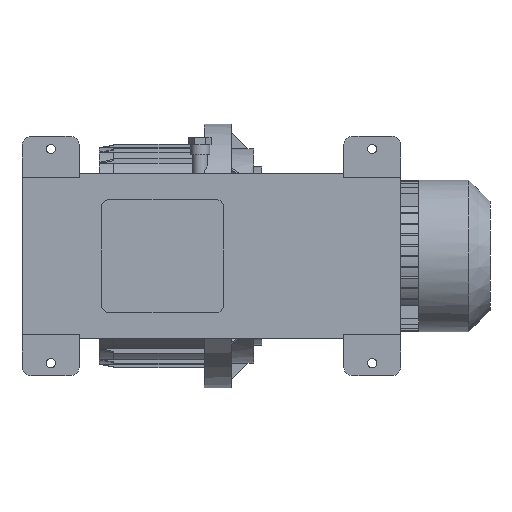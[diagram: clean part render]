
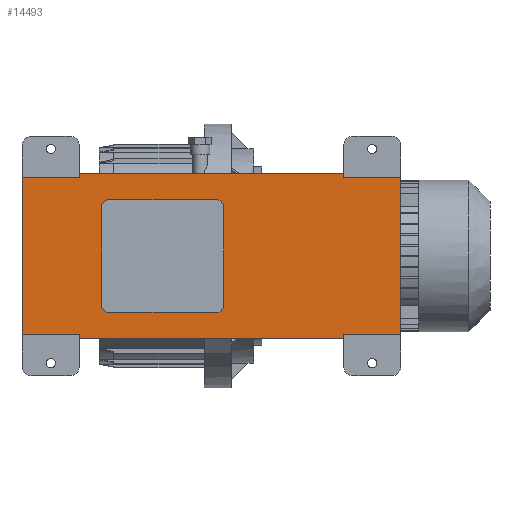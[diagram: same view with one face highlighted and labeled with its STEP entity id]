
A CAD part, front view. The second image highlights one B-rep face of the part: STEP entity #14493.
In plain terms, the highlighted planar face has unit normal (0, -1, 0).
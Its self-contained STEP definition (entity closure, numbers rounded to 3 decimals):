
#215=CIRCLE('',#15037,10.);
#217=CIRCLE('',#15040,10.);
#219=CIRCLE('',#15043,10.);
#221=CIRCLE('',#15046,10.);
#966=ORIENTED_EDGE('',*,*,#3872,.T.);
#967=ORIENTED_EDGE('',*,*,#3892,.T.);
#968=ORIENTED_EDGE('',*,*,#3926,.F.);
#969=ORIENTED_EDGE('',*,*,#3921,.T.);
#970=ORIENTED_EDGE('',*,*,#3902,.T.);
#971=ORIENTED_EDGE('',*,*,#3927,.T.);
#972=ORIENTED_EDGE('',*,*,#3911,.T.);
#973=ORIENTED_EDGE('',*,*,#3917,.T.);
#974=ORIENTED_EDGE('',*,*,#3928,.F.);
#975=ORIENTED_EDGE('',*,*,#3886,.T.);
#976=ORIENTED_EDGE('',*,*,#3881,.T.);
#977=ORIENTED_EDGE('',*,*,#3929,.T.);
#978=ORIENTED_EDGE('',*,*,#3864,.T.);
#979=ORIENTED_EDGE('',*,*,#3748,.T.);
#980=ORIENTED_EDGE('',*,*,#3863,.T.);
#981=ORIENTED_EDGE('',*,*,#3752,.T.);
#982=ORIENTED_EDGE('',*,*,#3862,.T.);
#983=ORIENTED_EDGE('',*,*,#3744,.T.);
#984=ORIENTED_EDGE('',*,*,#3865,.T.);
#985=ORIENTED_EDGE('',*,*,#3756,.T.);
#3744=EDGE_CURVE('',#5286,#5285,#215,.T.);
#3748=EDGE_CURVE('',#5290,#5289,#217,.T.);
#3752=EDGE_CURVE('',#5294,#5293,#219,.T.);
#3756=EDGE_CURVE('',#5298,#5297,#221,.T.);
#3862=EDGE_CURVE('',#5293,#5286,#6369,.T.);
#3863=EDGE_CURVE('',#5289,#5294,#6370,.T.);
#3864=EDGE_CURVE('',#5297,#5290,#6371,.T.);
#3865=EDGE_CURVE('',#5285,#5298,#6372,.T.);
#3872=EDGE_CURVE('',#5379,#5380,#6377,.T.);
#3881=EDGE_CURVE('',#5385,#5386,#6384,.T.);
#3886=EDGE_CURVE('',#5388,#5385,#6389,.T.);
#3892=EDGE_CURVE('',#5380,#5391,#6395,.T.);
#3902=EDGE_CURVE('',#5397,#5398,#6403,.T.);
#3911=EDGE_CURVE('',#5403,#5404,#6410,.T.);
#3917=EDGE_CURVE('',#5404,#5406,#6416,.T.);
#3921=EDGE_CURVE('',#5409,#5397,#6420,.T.);
#3926=EDGE_CURVE('',#5409,#5391,#6425,.T.);
#3927=EDGE_CURVE('',#5398,#5403,#6426,.T.);
#3928=EDGE_CURVE('',#5388,#5406,#6427,.T.);
#3929=EDGE_CURVE('',#5386,#5379,#6428,.T.);
#5285=VERTEX_POINT('',#19287);
#5286=VERTEX_POINT('',#19289);
#5289=VERTEX_POINT('',#19296);
#5290=VERTEX_POINT('',#19298);
#5293=VERTEX_POINT('',#19305);
#5294=VERTEX_POINT('',#19307);
#5297=VERTEX_POINT('',#19314);
#5298=VERTEX_POINT('',#19316);
#5379=VERTEX_POINT('',#19551);
#5380=VERTEX_POINT('',#19552);
#5385=VERTEX_POINT('',#19569);
#5386=VERTEX_POINT('',#19570);
#5388=VERTEX_POINT('',#19579);
#5391=VERTEX_POINT('',#19589);
#5397=VERTEX_POINT('',#19611);
#5398=VERTEX_POINT('',#19612);
#5403=VERTEX_POINT('',#19629);
#5404=VERTEX_POINT('',#19630);
#5406=VERTEX_POINT('',#19639);
#5409=VERTEX_POINT('',#19649);
#6369=LINE('',#19530,#7436);
#6370=LINE('',#19532,#7437);
#6371=LINE('',#19534,#7438);
#6372=LINE('',#19536,#7439);
#6377=LINE('',#19550,#7444);
#6384=LINE('',#19568,#7451);
#6389=LINE('',#19578,#7456);
#6395=LINE('',#19590,#7462);
#6403=LINE('',#19610,#7470);
#6410=LINE('',#19628,#7477);
#6416=LINE('',#19640,#7483);
#6420=LINE('',#19648,#7487);
#6425=LINE('',#19658,#7492);
#6426=LINE('',#19659,#7493);
#6427=LINE('',#19660,#7494);
#6428=LINE('',#19661,#7495);
#7436=VECTOR('',#16338,1000.);
#7437=VECTOR('',#16341,1000.);
#7438=VECTOR('',#16344,1000.);
#7439=VECTOR('',#16347,1000.);
#7444=VECTOR('',#16362,1000.);
#7451=VECTOR('',#16379,1000.);
#7456=VECTOR('',#16388,1000.);
#7462=VECTOR('',#16398,1000.);
#7470=VECTOR('',#16420,1000.);
#7477=VECTOR('',#16437,1000.);
#7483=VECTOR('',#16447,1000.);
#7487=VECTOR('',#16455,1000.);
#7492=VECTOR('',#16466,1000.);
#7493=VECTOR('',#16467,1000.);
#7494=VECTOR('',#16468,1000.);
#7495=VECTOR('',#16469,1000.);
#8474=EDGE_LOOP('',(#966,#967,#968,#969,#970,#971,#972,#973,#974,#975,#976,
#977));
#8475=EDGE_LOOP('',(#978,#979,#980,#981,#982,#983,#984,#985));
#9175=FACE_BOUND('',#8474,.T.);
#9176=FACE_BOUND('',#8475,.T.);
#9838=PLANE('',#15144);
#14493=ADVANCED_FACE('',(#9175,#9176),#9838,.F.);
#15037=AXIS2_PLACEMENT_3D('',#19288,#16113,#16114);
#15040=AXIS2_PLACEMENT_3D('',#19297,#16121,#16122);
#15043=AXIS2_PLACEMENT_3D('',#19306,#16129,#16130);
#15046=AXIS2_PLACEMENT_3D('',#19315,#16137,#16138);
#15144=AXIS2_PLACEMENT_3D('',#19657,#16464,#16465);
#16113=DIRECTION('',(0.,1.,0.));
#16114=DIRECTION('',(0.,0.,1.));
#16121=DIRECTION('',(0.,1.,0.));
#16122=DIRECTION('',(0.,0.,1.));
#16129=DIRECTION('',(0.,1.,0.));
#16130=DIRECTION('',(0.,0.,1.));
#16137=DIRECTION('',(0.,1.,0.));
#16138=DIRECTION('',(0.,0.,1.));
#16338=DIRECTION('',(-1.,0.,0.));
#16341=DIRECTION('',(0.,0.,-1.));
#16344=DIRECTION('',(1.,0.,0.));
#16347=DIRECTION('',(0.,0.,1.));
#16362=DIRECTION('',(1.,0.,0.));
#16379=DIRECTION('',(-1.,0.,0.));
#16388=DIRECTION('',(0.,0.,-1.));
#16398=DIRECTION('',(0.,0.,-1.));
#16420=DIRECTION('',(1.,0.,0.));
#16437=DIRECTION('',(-1.,0.,0.));
#16447=DIRECTION('',(0.,0.,1.));
#16455=DIRECTION('',(0.,0.,1.));
#16464=DIRECTION('',(0.,1.,0.));
#16465=DIRECTION('',(0.,0.,1.));
#16466=DIRECTION('',(-1.,0.,0.));
#16467=DIRECTION('',(0.,0.,1.));
#16468=DIRECTION('',(1.,0.,0.));
#16469=DIRECTION('',(0.,0.,-1.));
#19287=CARTESIAN_POINT('',(-154.,0.,-69.));
#19288=CARTESIAN_POINT('',(-144.,0.,-69.));
#19289=CARTESIAN_POINT('',(-144.,0.,-79.));
#19296=CARTESIAN_POINT('',(17.,0.,69.));
#19297=CARTESIAN_POINT('',(7.,0.,69.));
#19298=CARTESIAN_POINT('',(7.,0.,79.));
#19305=CARTESIAN_POINT('',(7.,0.,-79.));
#19306=CARTESIAN_POINT('',(7.,0.,-69.));
#19307=CARTESIAN_POINT('',(17.,0.,-69.));
#19314=CARTESIAN_POINT('',(-144.,0.,79.));
#19315=CARTESIAN_POINT('',(-144.,0.,69.));
#19316=CARTESIAN_POINT('',(-154.,0.,69.));
#19530=CARTESIAN_POINT('',(17.,0.,-79.));
#19532=CARTESIAN_POINT('',(17.,0.,79.));
#19534=CARTESIAN_POINT('',(-154.,0.,79.));
#19536=CARTESIAN_POINT('',(-154.,0.,-79.));
#19550=CARTESIAN_POINT('',(-265.,0.,-110.));
#19551=CARTESIAN_POINT('',(-265.,0.,-110.));
#19552=CARTESIAN_POINT('',(-185.,0.,-110.));
#19568=CARTESIAN_POINT('',(-185.,0.,110.));
#19569=CARTESIAN_POINT('',(-185.,0.,110.));
#19570=CARTESIAN_POINT('',(-265.,0.,110.));
#19578=CARTESIAN_POINT('',(-185.,0.,167.5));
#19579=CARTESIAN_POINT('',(-185.,0.,115.));
#19589=CARTESIAN_POINT('',(-185.,0.,-115.));
#19590=CARTESIAN_POINT('',(-185.,0.,-110.));
#19610=CARTESIAN_POINT('',(185.,0.,-110.));
#19611=CARTESIAN_POINT('',(185.,0.,-110.));
#19612=CARTESIAN_POINT('',(265.,0.,-110.));
#19628=CARTESIAN_POINT('',(185.,0.,110.));
#19629=CARTESIAN_POINT('',(265.,0.,110.));
#19630=CARTESIAN_POINT('',(185.,0.,110.));
#19639=CARTESIAN_POINT('',(185.,0.,115.));
#19640=CARTESIAN_POINT('',(185.,0.,110.));
#19648=CARTESIAN_POINT('',(185.,0.,-167.5));
#19649=CARTESIAN_POINT('',(185.,0.,-115.));
#19657=CARTESIAN_POINT('',(0.,0.,0.));
#19658=CARTESIAN_POINT('',(265.,0.,-115.));
#19659=CARTESIAN_POINT('',(265.,0.,0.));
#19660=CARTESIAN_POINT('',(-265.,0.,115.));
#19661=CARTESIAN_POINT('',(-265.,0.,0.));
